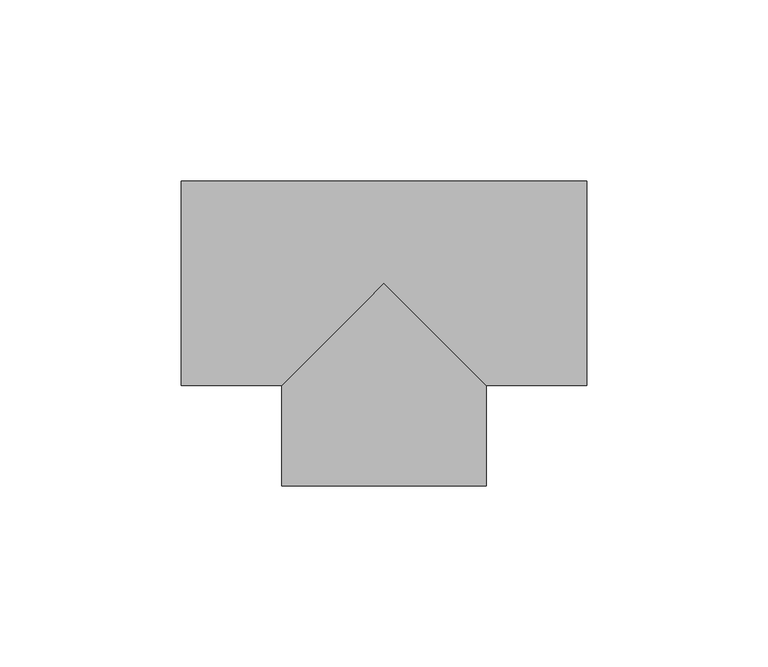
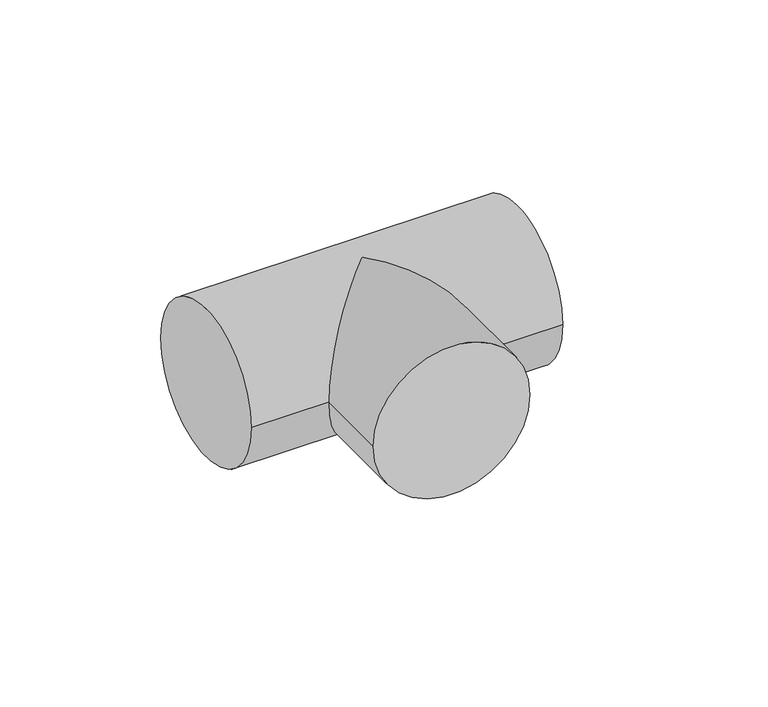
"""IFC4 building model written with IfcOpenShell, lengths in millimetres: pipe fitting geometry, M_Te - PVC - Serie 40 : Estándar."""

from ifc_helpers import new_model, si_unit, frame, origin, place, context, project, spatial, circle_curve, ellipse_curve, source, transform, mapped, element, save
from ifc_brep_helpers import plane_surface, cylinder_surface, advanced_brep


def pipe_fitting_e417bdfe(model_context):
    return source(origin(), model_context, "Body", "AdvancedBrep", [
        advanced_brep(
        [(-55.8601562, -28.1404219, 0.0), (-55.8601562, 28.1404219, 0.0), (55.8601563, -28.1404219, 0.0), (55.8601563, 28.1404219, 0.0), (-28.1404219, -28.1404219, 0.0), (0.0, 0.0, 28.1404219), (28.1404219, -28.1404219, 0.0), (0.0, 0.0, -28.1404219), (-28.1404219, -55.8601563, 0.0), (28.1404219, -55.8601563, 0.0)],
        [
            (0, 1, circle_curve(frame((-55.8601562, 0.0, 0.0), z_axis=(-1.0, 0.0, 0.0), x_axis=(0.0, 1.0, 0.0)), 28.1404219)),
            (1, 0, circle_curve(frame((-55.8601562, 0.0, 0.0), z_axis=(-1.0, 0.0, 0.0), x_axis=(0.0, 1.0, 0.0)), 28.1404219)),
            (2, 3, circle_curve(frame((55.8601563, 0.0, 0.0), z_axis=(1.0, 0.0, 0.0), x_axis=(0.0, 1.0, 0.0)), 28.1404219)),
            (3, 2, circle_curve(frame((55.8601563, 0.0, 0.0), z_axis=(1.0, 0.0, 0.0), x_axis=(0.0, 1.0, 0.0)), 28.1404219)),
            (0, 4),
            (4, 5, ellipse_curve(frame((0.0, 0.0, 0.0), z_axis=(-0.7071067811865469, 0.7071067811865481, 0.0), x_axis=(-0.707106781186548, -0.7071067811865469, 0.0)), 39.7965663, 28.1404219)),
            (5, 6, ellipse_curve(frame((0.0, 0.0, 0.0), z_axis=(0.707106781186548, 0.7071067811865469, 0.0), x_axis=(-0.707106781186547, 0.707106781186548, 0.0)), 39.7965663, 28.1404219)),
            (6, 2),
            (3, 1),
            (6, 7, ellipse_curve(frame((0.0, 0.0, 0.0), z_axis=(0.707106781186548, 0.7071067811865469, 0.0), x_axis=(-0.707106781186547, 0.707106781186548, 0.0)), 39.7965663, 28.1404219)),
            (7, 4, ellipse_curve(frame((0.0, 0.0, 0.0), z_axis=(-0.7071067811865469, 0.7071067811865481, 0.0), x_axis=(-0.707106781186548, -0.7071067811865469, 0.0)), 39.7965663, 28.1404219)),
            (8, 9, circle_curve(frame((0.0, -55.8601563, 0.0), z_axis=(0.0, -1.0, 0.0), x_axis=(1.0, 0.0, 0.0)), 28.1404219)),
            (9, 8, circle_curve(frame((0.0, -55.8601563, 0.0), z_axis=(0.0, -1.0, 0.0), x_axis=(1.0, 0.0, 0.0)), 28.1404219)),
            (9, 6),
            (4, 8),
        ],
        [
            plane_surface(frame((-55.8601562, 0.0, 0.0), z_axis=(-1.0, 0.0, 0.0), x_axis=(0.0, 0.0, 1.0))),
            plane_surface(frame((55.8601563, 0.0, 0.0), z_axis=(1.0, 0.0, 0.0), x_axis=(0.0, 0.0, 1.0))),
            cylinder_surface(frame((-55.8601562, 0.0, 0.0), z_axis=(-1.0, 0.0, 0.0), x_axis=(0.0, 1.0, 0.0)), 28.1404219),
            plane_surface(frame((0.0, -55.8601563, 0.0), z_axis=(0.0, -1.0, 0.0), x_axis=(0.0, 0.0, 1.0))),
            cylinder_surface(frame((0.0, 0.0, 0.0), z_axis=(0.0, 1.0, 0.0), x_axis=(1.0, 0.0, 0.0)), 28.1404219),
        ],
        [
            (0, [[1, 2]]),
            (1, [[3, 4]]),
            (2, [[-1, 5, 6, 7, 8, -4, 9]]),
            (2, [[-2, -9, -3, -8, 10, 11, -5]]),
            (3, [[12, 13]]),
            (4, [[-13, 14, -7, -6, 15]]),
            (4, [[-12, -15, -11, -10, -14]]),
        ],
    ),
    ])


if __name__ == "__main__":
    model = new_model("IFC4")
    model_context = context("Model", 3, world=origin())
    ifc_project = project(units=[si_unit("LENGTHUNIT", "METRE", prefix="MILLI")], contexts=[model_context])
    site = spatial("IfcSite", under=ifc_project)
    building = spatial("IfcBuilding", under=site)
    placement = place(None, origin())
    pipe_fitting_shape = pipe_fitting_e417bdfe(model_context)
    element("IfcPipeFitting", 1, ObjectType="M_Te - PVC - Serie 40 : Estándar", at=placement, inside=building, context=model_context, shape_type="MappedRepresentation", body=[
        mapped(pipe_fitting_shape, transform((0.0, 0.0, 0.0), x_axis=(1.0, 0.0, 0.0), y_axis=(0.0, 1.0, 0.0), z_axis=(0.0, 0.0, 1.0))),
    ])
    save(model, "model.ifc")
